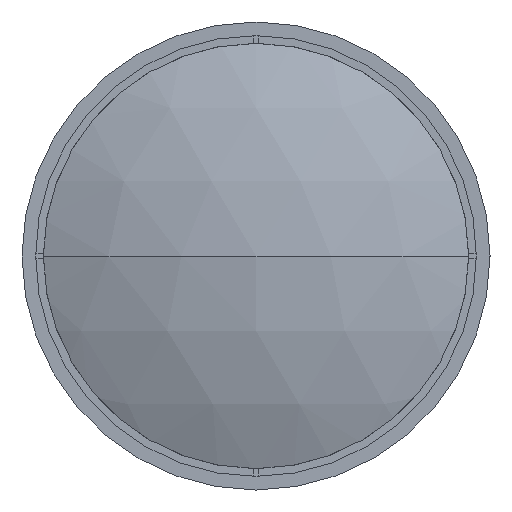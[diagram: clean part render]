
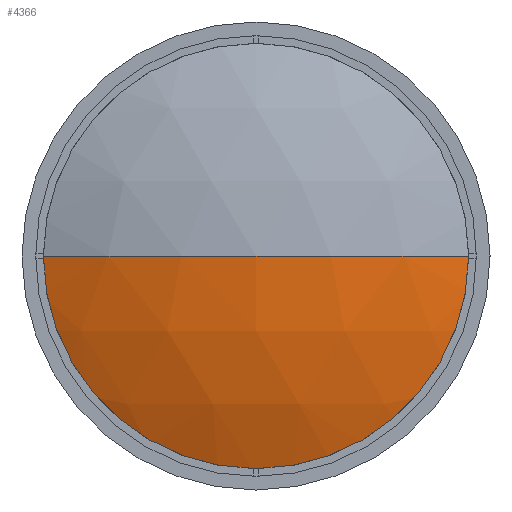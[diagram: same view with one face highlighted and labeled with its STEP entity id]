
A CAD part, left-side view. The second image highlights one B-rep face of the part: STEP entity #4366.
In plain terms, the highlighted spherical face has radius 137.7 mm.
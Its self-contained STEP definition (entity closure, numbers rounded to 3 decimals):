
#147 = SPHERICAL_SURFACE ( 'NONE', #4738, 137.7 ) ;
#193 = VERTEX_POINT ( 'NONE', #1987 ) ;
#379 = DIRECTION ( 'NONE',  ( 0., 0., 1. ) ) ;
#485 = CARTESIAN_POINT ( 'NONE',  ( 137.7, 0., 0. ) ) ;
#503 = VERTEX_POINT ( 'NONE', #1664 ) ;
#703 = CIRCLE ( 'NONE', #2210, 137.7 ) ;
#1517 = CIRCLE ( 'NONE', #3136, 56. ) ;
#1527 = DIRECTION ( 'NONE',  ( 0., 1., 0. ) ) ;
#1664 = CARTESIAN_POINT ( 'NONE',  ( 11.901, 56., 0. ) ) ;
#1854 = DIRECTION ( 'NONE',  ( 0., 0., -1. ) ) ;
#1858 = CARTESIAN_POINT ( 'NONE',  ( 137.7, 0., 0. ) ) ;
#1876 = EDGE_CURVE ( 'NONE', #193, #4461, #3432, .T. ) ;
#1987 = CARTESIAN_POINT ( 'NONE',  ( 11.901, -56., 0. ) ) ;
#2210 = AXIS2_PLACEMENT_3D ( 'NONE', #1858, #4799, #3153 ) ;
#2230 = EDGE_CURVE ( 'NONE', #503, #4461, #703, .T. ) ;
#2363 = ORIENTED_EDGE ( 'NONE', *, *, #4224, .T. ) ;
#2736 = DIRECTION ( 'NONE',  ( 0., 0., -1. ) ) ;
#2867 = ORIENTED_EDGE ( 'NONE', *, *, #2230, .F. ) ;
#3091 = DIRECTION ( 'NONE',  ( 0., 1., 0. ) ) ;
#3136 = AXIS2_PLACEMENT_3D ( 'NONE', #5528, #3849, #379 ) ;
#3153 = DIRECTION ( 'NONE',  ( 1., 0., 0. ) ) ;
#3216 = CARTESIAN_POINT ( 'NONE',  ( 137.7, 0., 0. ) ) ;
#3432 = CIRCLE ( 'NONE', #5046, 137.7 ) ;
#3581 = ORIENTED_EDGE ( 'NONE', *, *, #1876, .T. ) ;
#3849 = DIRECTION ( 'NONE',  ( -1., 0., 0. ) ) ;
#3904 = CARTESIAN_POINT ( 'NONE',  ( 0., 0., 0. ) ) ;
#4224 = EDGE_CURVE ( 'NONE', #503, #193, #1517, .T. ) ;
#4343 = FACE_OUTER_BOUND ( 'NONE', #5197, .T. ) ;
#4366 = ADVANCED_FACE ( 'NONE', ( #4343 ), #147, .T. ) ;
#4461 = VERTEX_POINT ( 'NONE', #3904 ) ;
#4738 = AXIS2_PLACEMENT_3D ( 'NONE', #485, #1854, #3091 ) ;
#4799 = DIRECTION ( 'NONE',  ( 0., 0., 1. ) ) ;
#5046 = AXIS2_PLACEMENT_3D ( 'NONE', #3216, #2736, #1527 ) ;
#5197 = EDGE_LOOP ( 'NONE', ( #2363, #3581, #2867 ) ) ;
#5528 = CARTESIAN_POINT ( 'NONE',  ( 11.901, 0., 0. ) ) ;
